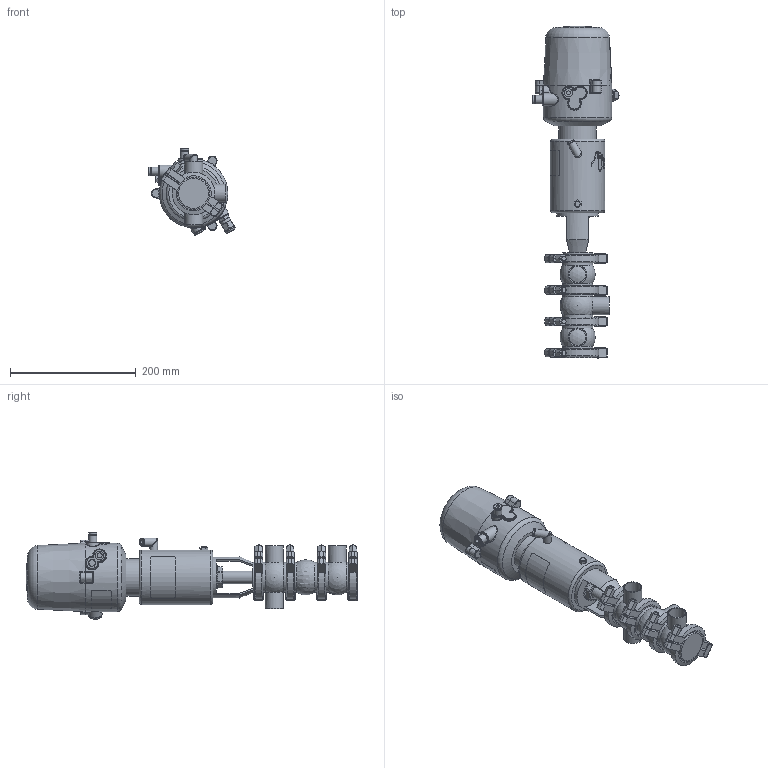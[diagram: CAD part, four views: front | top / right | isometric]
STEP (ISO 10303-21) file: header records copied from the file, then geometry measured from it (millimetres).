
FILE_DESCRIPTION (( 'STEP AP214' ), '1' );
FILE_NAME ('INNOVA L P W DIN 025 T1 AS NC & C-TOP S_10.241.16.0052.STEP', '2024-08-06T12:58:31', ( '' ), ( '' ), 'SwSTEP 2.0', 'SolidWorks 2023', '' );
FILE_SCHEMA (( 'AUTOMOTIVE_DESIGN' ));
Length unit declared in the file: millimetre
Products named in the file (9): 10.240.15.0007_DIN 025; 10.241.15.0001_DIN 025; 10.240.15.0006_DIN 025; 10.426.15.0001_C-TOP S - 1 EV; 10.240.15.0017_Estàndard; 10.240.15.0010_DN 025; INNOVA L P W DIN 025 T1 AS NC & C-TOP S_10.241.16.0052; 10.240.15.0001_DN 025; 10.240.15.0014_T1 AS P180
Assembly tree (12 placements, depth 2):
  INNOVA L P W DIN 025 T1 AS NC & C-TOP S_10.241.16.0052
    10.240.15.0007_DIN 025
    10.240.15.0006_DIN 025  x2
    10.240.15.0010_DN 025
    10.240.15.0014_T1 AS P180
    10.240.15.0017_Estàndard
    10.426.15.0001_C-TOP S - 1 EV
    10.240.15.0001_DN 025  x4
    10.241.15.0001_DIN 025
Bounding box: 136.88 x 528.09 x 137.63 mm (x, y, z)
Volume: 2692486.2 mm3; surface area: 285510 mm2
Topology: 13 solids, 13 shells, 1317 faces, 3228 edges, 2139 vertices
Faces by surface type: plane 478, cylinder 406, cone 225, bspline 160, torus 36, sphere 12
Full cylindrical faces by diameter (mm): 0.371 x17, 0.512 x16, 0.658 x16, 0.795 x16, 0.94 x15, 1.098 x15, 1.241 x13, 1.382 x13, 1.523 x11, 1.669 x10, 2.201 x1, 4 x2, 5.5 x2, 6 x2, 6.15 x1, 8 x10, 8.5 x1, 10 x1, 10.5 x1, 11 x2, 12.5 x3, 13 x2, 13.5 x2, 16 x1, 17 x3, 20 x3, 20.5 x1, 22 x2, 26 x4, 29 x4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
Entity records: 57289 total; most frequent: CARTESIAN_POINT 26751, ORIENTED_EDGE 4566, DIRECTION 3719, EDGE_CURVE 2283, VERTEX_POINT 1622, EDGE_LOOP 1579, AXIS2_PLACEMENT_3D 1527, FACE_OUTER_BOUND 1344
